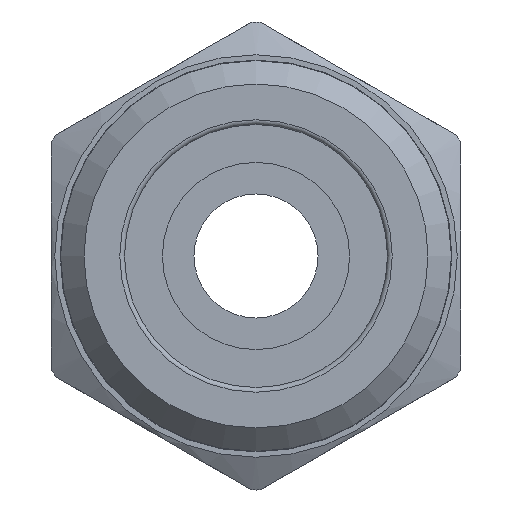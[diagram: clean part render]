
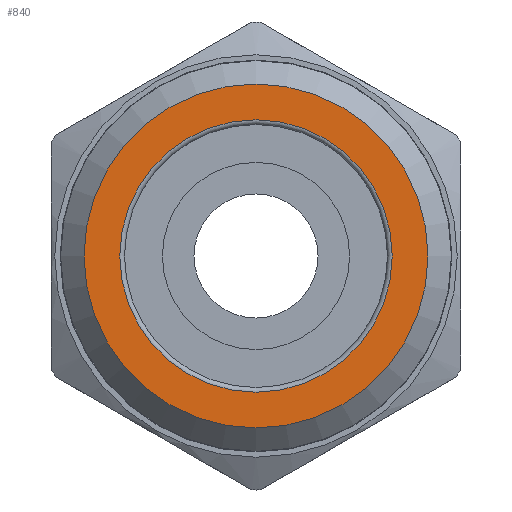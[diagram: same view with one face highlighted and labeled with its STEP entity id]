
A CAD part, front view. The second image highlights one B-rep face of the part: STEP entity #840.
In plain terms, the highlighted planar face has unit normal (0, -1, 0).
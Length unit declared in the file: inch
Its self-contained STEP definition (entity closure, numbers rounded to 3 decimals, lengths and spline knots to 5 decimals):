
#52=FACE_BOUND('',#175,.T.);
#65=PLANE('',#964);
#119=FACE_OUTER_BOUND('',#174,.T.);
#174=EDGE_LOOP('',(#682));
#175=EDGE_LOOP('',(#683,#684));
#314=CIRCLE('',#961,0.291);
#315=CIRCLE('',#962,0.291);
#317=CIRCLE('',#965,0.3675);
#393=VERTEX_POINT('',#1445);
#394=VERTEX_POINT('',#1447);
#395=VERTEX_POINT('',#1452);
#497=EDGE_CURVE('',#393,#394,#314,.T.);
#498=EDGE_CURVE('',#394,#393,#315,.T.);
#500=EDGE_CURVE('',#395,#395,#317,.T.);
#682=ORIENTED_EDGE('',*,*,#500,.F.);
#683=ORIENTED_EDGE('',*,*,#498,.F.);
#684=ORIENTED_EDGE('',*,*,#497,.F.);
#840=ADVANCED_FACE('',(#119,#52),#65,.T.);
#961=AXIS2_PLACEMENT_3D('',#1448,#1177,#1178);
#962=AXIS2_PLACEMENT_3D('',#1449,#1179,#1180);
#964=AXIS2_PLACEMENT_3D('',#1451,#1183,#1184);
#965=AXIS2_PLACEMENT_3D('',#1453,#1185,#1186);
#1177=DIRECTION('center_axis',(0.,-1.,0.));
#1178=DIRECTION('ref_axis',(0.,0.,1.));
#1179=DIRECTION('center_axis',(0.,-1.,0.));
#1180=DIRECTION('ref_axis',(0.,0.,1.));
#1183=DIRECTION('center_axis',(0.,-1.,0.));
#1184=DIRECTION('ref_axis',(0.,0.,-1.));
#1185=DIRECTION('center_axis',(0.,1.,0.));
#1186=DIRECTION('ref_axis',(0.,0.,1.));
#1445=CARTESIAN_POINT('',(0.,-1.,0.291));
#1447=CARTESIAN_POINT('',(0.,-1.,-0.291));
#1448=CARTESIAN_POINT('Origin',(0.,-1.,0.));
#1449=CARTESIAN_POINT('Origin',(0.,-1.,0.));
#1451=CARTESIAN_POINT('Origin',(0.,-1.,-0.281));
#1452=CARTESIAN_POINT('',(0.,-1.,-0.3675));
#1453=CARTESIAN_POINT('Origin',(0.,-1.,0.));
